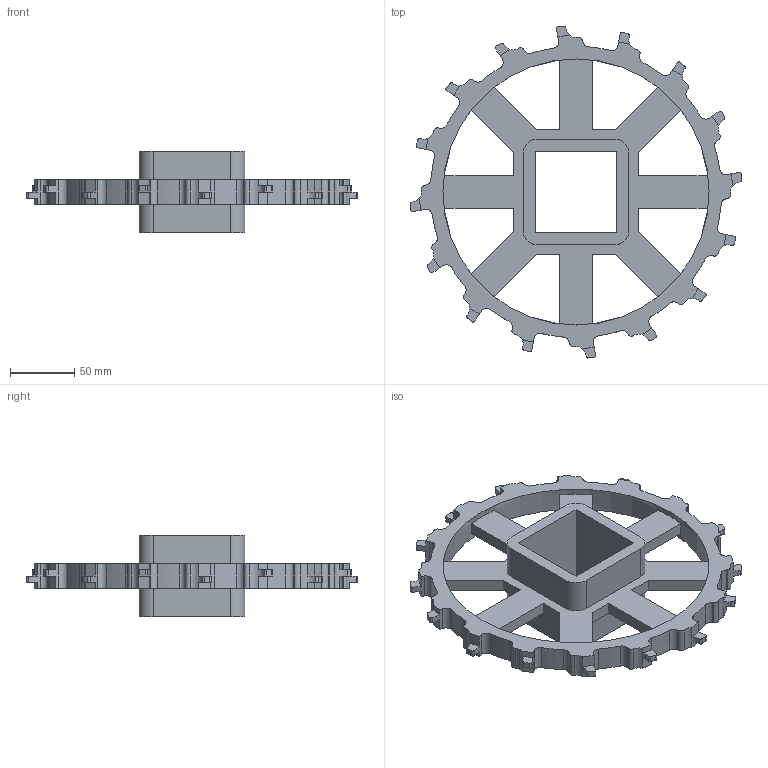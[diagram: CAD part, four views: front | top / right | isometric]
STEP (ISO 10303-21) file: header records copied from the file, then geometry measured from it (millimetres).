
FILE_DESCRIPTION((''),'2;1');
FILE_NAME('S200_SPROCKET_101X25_65_SQ','2008-12-12T',('jmumphre'),(''),'PRO/ENGINEER BY PARAMETRIC TECHNOLOGY CORPORATION, 2008150','PRO/ENGINEER BY PARAMETRIC TECHNOLOGY CORPORATION, 2008150','');
FILE_SCHEMA(('CONFIG_CONTROL_DESIGN'));
Length unit declared in the file: inch
Products named in the file (1): S200_SPROCKET_101X25_65_SQ
Bounding box: 259.05 x 259.05 x 63.25 mm (x, y, z)
Volume: 466540.6 mm3; surface area: 121256.4 mm2
Topology: 1 solids, 1 shells, 276 faces, 840 edges, 560 vertices
Faces by surface type: plane 154, cylinder 122
Entity records: 9576 total; most frequent: DIRECTION 1688, ORIENTED_EDGE 1680, CARTESIAN_POINT 1676, EDGE_CURVE 840, AXIS2_PLACEMENT_3D 572, VERTEX_POINT 560, VECTOR 544, LINE 544
